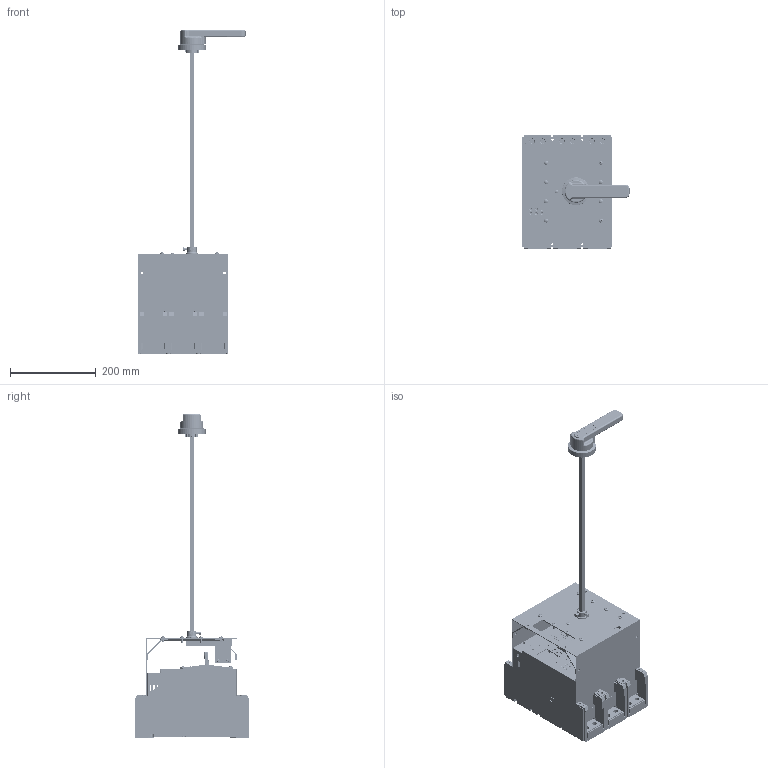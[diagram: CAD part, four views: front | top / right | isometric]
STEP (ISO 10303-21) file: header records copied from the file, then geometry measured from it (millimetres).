
FILE_DESCRIPTION (( 'STEP AP214' ), '1' );
FILE_NAME ('PRO.KVANT_S1-1600S,H–3P+KVA000183STEP.STEP', '2024-10-09T04:09:25', ( '' ), ( '' ), 'SwSTEP 2.0', 'SolidWorks 2018', '' );
FILE_SCHEMA (( 'AUTOMOTIVE_DESIGN' ));
Length unit declared in the file: millimetre
Products named in the file (1): PRO.KVANT_S1-1600S,H–3P+KVA000183STEP
Bounding box: 250.25 x 268 x 756.5 mm (x, y, z)
Volume: 2883952.6 mm3; surface area: 1448714.9 mm2
Topology: 67 solids, 68 shells, 7106 faces, 20041 edges, 13256 vertices
Faces by surface type: plane 5624, cylinder 1248, cone 96, bspline 93, sphere 26, torus 19
Full cylindrical faces by diameter (mm): 1 x8, 2 x1, 2.4 x15, 2.5 x3, 2.6 x2, 3 x3, 3.4 x1, 3.5 x23, 4 x40, 4.2 x10, 4.3 x1, 4.5 x10, 4.8 x6, 5 x31, 5.2 x14, 5.4 x12, 6 x23, 6.2 x6, 6.4 x12, 6.5 x5, 7 x4, 7.6 x1, 7.7 x14, 8 x7, 8.2 x14, 8.5 x6, 9 x2, 10 x22, 11 x13, 11.5 x1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
Entity records: 309449 total; most frequent: CARTESIAN_POINT 46550, ORIENTED_EDGE 38934, DIRECTION 35853, EDGE_CURVE 19467, VECTOR 16039, LINE 16039, VERTEX_POINT 13115, AXIS2_PLACEMENT_3D 9907
